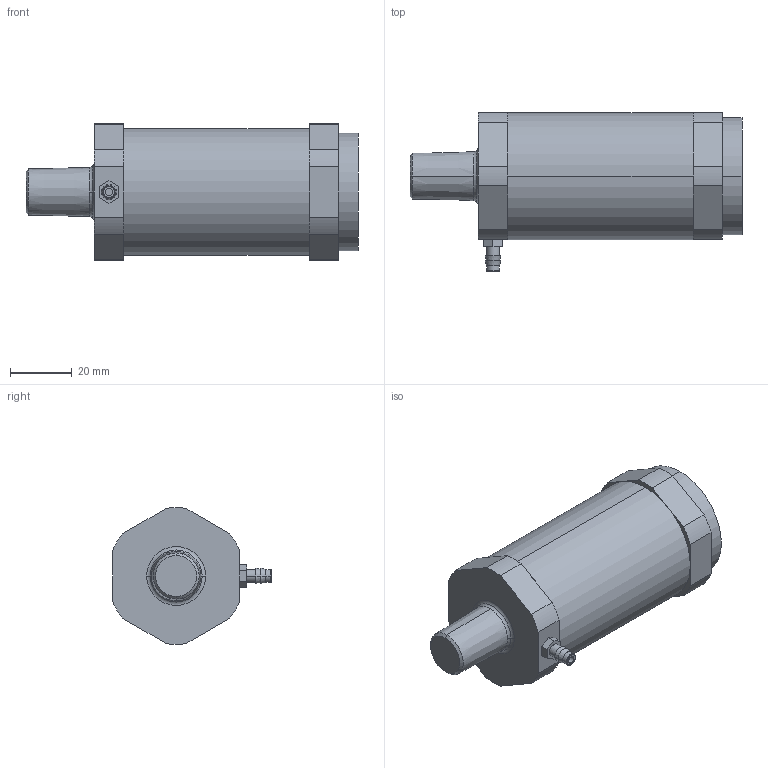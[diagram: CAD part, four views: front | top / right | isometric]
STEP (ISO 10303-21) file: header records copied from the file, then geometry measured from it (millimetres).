
FILE_DESCRIPTION((''),'2;1');
FILE_NAME('XC4_ASM','2017-08-24T',('jennifer.elliott'),('CenterLine (Windsor) Ltd - Automation Components Division'),'PRO/ENGINEER BY PARAMETRIC TECHNOLOGY CORPORATION, 2015030','PRO/ENGINEER BY PARAMETRIC TECHNOLOGY CORPORATION, 2015030','');
FILE_SCHEMA(('AUTOMOTIVE_DESIGN { 1 0 10303 214 1 1 1 1 }'));
Length unit declared in the file: inch
Products named in the file (6): PRT0975; PRT0976; PRT0977; PRT0978; PRT0979; XC4_ASM
Assembly tree (5 placements, depth 2):
  XC4_ASM
    PRT0975
    PRT0976
    PRT0977
    PRT0978
    PRT0979
Bounding box: 107.95 x 51.59 x 44.45 mm (x, y, z)
Volume: 119860.9 mm3; surface area: 23251.1 mm2
Topology: 5 solids, 5 shells, 70 faces, 183 edges, 127 vertices
Faces by surface type: plane 32, cylinder 22, torus 8, cone 8
Entity records: 2611 total; most frequent: DIRECTION 444, CARTESIAN_POINT 407, ORIENTED_EDGE 366, EDGE_CURVE 183, AXIS2_PLACEMENT_3D 180, VERTEX_POINT 127, CIRCLE 99, VECTOR 84
